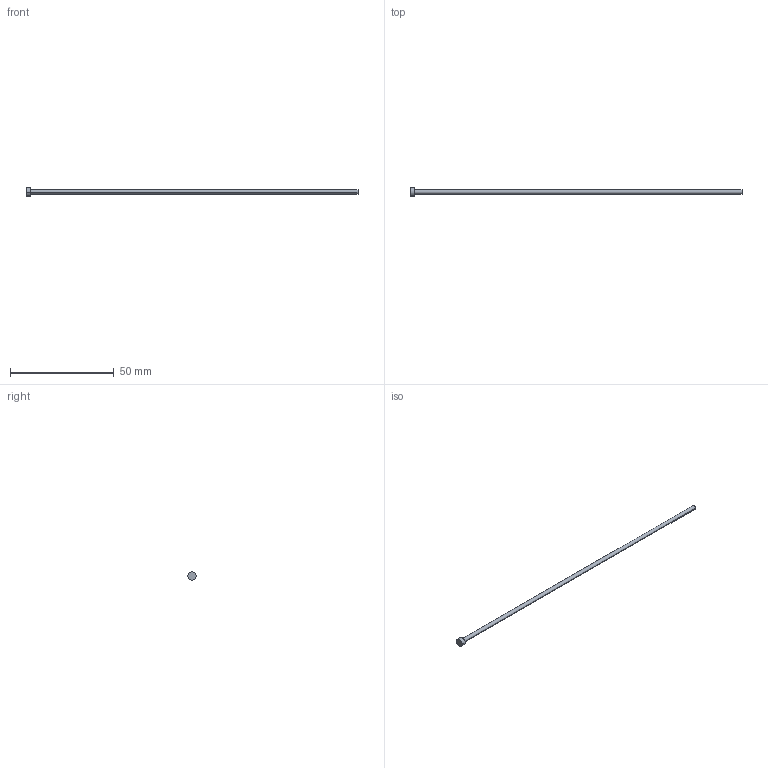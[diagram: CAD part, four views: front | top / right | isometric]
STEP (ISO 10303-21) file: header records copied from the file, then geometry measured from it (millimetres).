
FILE_DESCRIPTION (( 'STEP AP214' ), '1' );
FILE_NAME ('A-2x160.STEP', '2020-05-28T17:24:06', ( 'August' ), ( '' ), 'SwSTEP 2.0', 'SolidWorks 2018', '' );
FILE_SCHEMA (( 'AUTOMOTIVE_DESIGN' ));
Length unit declared in the file: millimetre
Products named in the file (1): A-2x160
Bounding box: 160 x 4 x 4 mm (x, y, z)
Volume: 521.6 mm3; surface area: 1042.5 mm2
Topology: 1 solids, 1 shells, 9 faces, 16 edges, 10 vertices
Faces by surface type: cylinder 4, plane 3, torus 2
Entity records: 260 total; most frequent: DIRECTION 48, CARTESIAN_POINT 36, ORIENTED_EDGE 32, AXIS2_PLACEMENT_3D 22, EDGE_CURVE 16, CIRCLE 12, EDGE_LOOP 10, VERTEX_POINT 10
